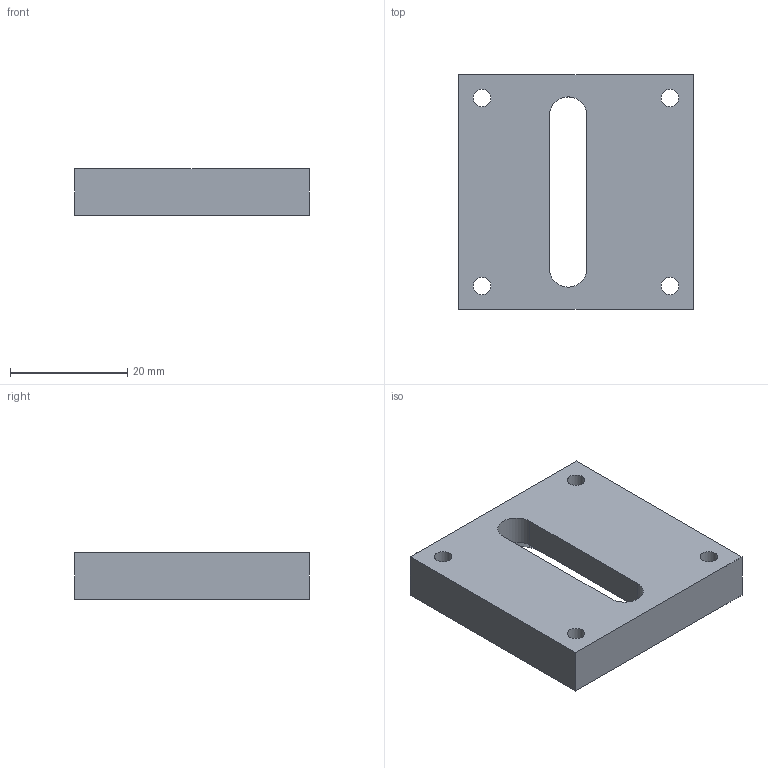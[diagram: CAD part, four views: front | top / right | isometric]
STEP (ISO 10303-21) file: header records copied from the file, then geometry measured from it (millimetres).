
FILE_DESCRIPTION(/* description */ ('','CAx-IF Rec.Pracs.---Representation and Presentation of Product Manufacturing Information (PMI)---3.8---2014-02-18'),/* implementation_level */ '2;1');
FILE_NAME(/* name */ 'D:\Inventor\1p2p\for vendors\DM mount\Optima order\interface LY40 tomb.stp',/* time_stamp */ '2018-05-07T12:36:32-07:00',/* author */ ('Radek'),/* organization */ (''),/* preprocessor_version */ 'ST-DEVELOPER v16.5',/* originating_system */ 'Autodesk Inventor 2017',/* authorisation */ '');
FILE_SCHEMA (('AP242_MANAGED_MODEL_BASED_3D_ENGINEERING_MIM_LF { 1 0 10303 442 1 1 4 }'));
Length unit declared in the file: millimetre
Products named in the file (1): interface LY40 tomb
Bounding box: 40 x 40 x 8 mm (x, y, z)
Volume: 10631.5 mm3; surface area: 4789.7 mm2
Topology: 1 solids, 1 shells, 18 faces, 44 edges, 28 vertices
Faces by surface type: plane 10, cylinder 6, cone 2
Full cylindrical faces by diameter (mm): 3 x4
Entity records: 560 total; most frequent: DIRECTION 92, CARTESIAN_POINT 87, ORIENTED_EDGE 80, EDGE_CURVE 40, AXIS2_PLACEMENT_3D 33, EDGE_LOOP 32, VERTEX_POINT 28, LINE 26
